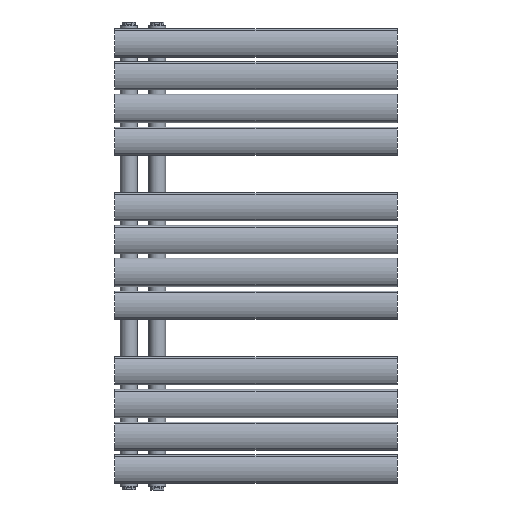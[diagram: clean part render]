
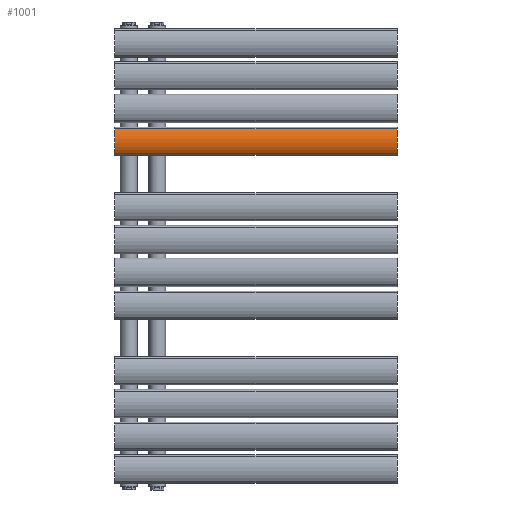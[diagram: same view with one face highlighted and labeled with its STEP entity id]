
A CAD part, front view. The second image highlights one B-rep face of the part: STEP entity #1001.
In plain terms, the highlighted cylindrical face has radius 39.5 mm (diameter 79 mm), a partial arc.
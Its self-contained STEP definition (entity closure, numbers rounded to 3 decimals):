
#105=LINE('',#2577,#137);
#106=LINE('',#2583,#138);
#137=VECTOR('',#1298,10.);
#138=VECTOR('',#1305,10.);
#330=FACE_OUTER_BOUND('',#433,.T.);
#433=EDGE_LOOP('',(#844,#845,#846,#847));
#481=CIRCLE('',#1119,39.5);
#482=CIRCLE('',#1120,39.5);
#564=VERTEX_POINT('',#2573);
#565=VERTEX_POINT('',#2575);
#566=VERTEX_POINT('',#2579);
#567=VERTEX_POINT('',#2581);
#665=EDGE_CURVE('',#564,#565,#105,.T.);
#666=EDGE_CURVE('',#564,#566,#481,.T.);
#667=EDGE_CURVE('',#567,#565,#482,.T.);
#668=EDGE_CURVE('',#566,#567,#106,.T.);
#844=ORIENTED_EDGE('',*,*,#666,.F.);
#845=ORIENTED_EDGE('',*,*,#665,.T.);
#846=ORIENTED_EDGE('',*,*,#667,.F.);
#847=ORIENTED_EDGE('',*,*,#668,.F.);
#966=CYLINDRICAL_SURFACE('',#1118,39.5);
#1001=ADVANCED_FACE('',(#330),#966,.T.);
#1118=AXIS2_PLACEMENT_3D('',#2578,#1299,#1300);
#1119=AXIS2_PLACEMENT_3D('',#2580,#1301,#1302);
#1120=AXIS2_PLACEMENT_3D('',#2582,#1303,#1304);
#1298=DIRECTION('',(0.,0.,-1.));
#1299=DIRECTION('center_axis',(0.,0.,-1.));
#1300=DIRECTION('ref_axis',(-0.552,-0.834,0.));
#1301=DIRECTION('center_axis',(0.,0.,1.));
#1302=DIRECTION('ref_axis',(-0.552,-0.834,0.));
#1303=DIRECTION('center_axis',(0.,0.,-1.));
#1304=DIRECTION('ref_axis',(-0.552,-0.834,0.));
#1305=DIRECTION('',(0.,0.,-1.));
#2573=CARTESIAN_POINT('',(-21.816,-18.429,0.));
#2575=CARTESIAN_POINT('',(-21.816,-18.429,-500.));
#2577=CARTESIAN_POINT('',(-21.816,-18.429,0.));
#2578=CARTESIAN_POINT('Origin',(0.,14.5,0.));
#2579=CARTESIAN_POINT('',(21.816,-18.429,0.));
#2580=CARTESIAN_POINT('Origin',(0.,14.5,0.));
#2581=CARTESIAN_POINT('',(21.816,-18.429,-500.));
#2582=CARTESIAN_POINT('Origin',(0.,14.5,-500.));
#2583=CARTESIAN_POINT('',(21.816,-18.429,0.));
